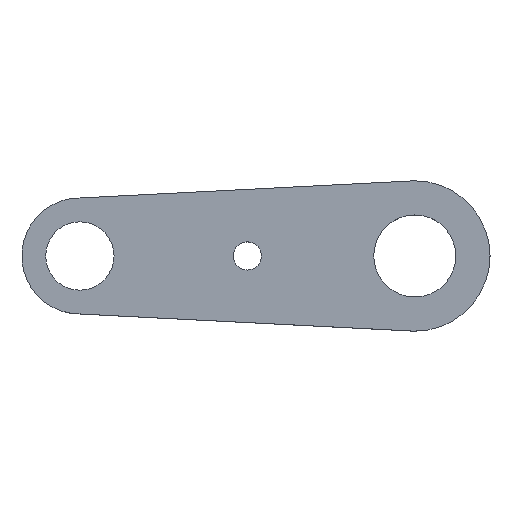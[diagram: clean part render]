
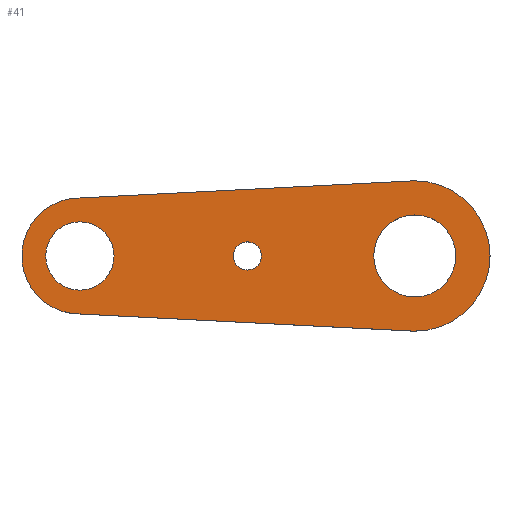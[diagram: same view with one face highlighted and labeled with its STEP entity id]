
A CAD part, top view. The second image highlights one B-rep face of the part: STEP entity #41.
In plain terms, the highlighted planar face has unit normal (0, 0, 1).
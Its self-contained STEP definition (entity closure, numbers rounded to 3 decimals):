
#41 = ADVANCED_FACE( '', ( #81, #82, #83, #84 ), #85, .F. );
#81 = FACE_BOUND( '', #124, .T. );
#82 = FACE_BOUND( '', #125, .T. );
#83 = FACE_BOUND( '', #126, .T. );
#84 = FACE_OUTER_BOUND( '', #127, .T. );
#85 = PLANE( '', #128 );
#124 = EDGE_LOOP( '', ( #178 ) );
#125 = EDGE_LOOP( '', ( #179 ) );
#126 = EDGE_LOOP( '', ( #180 ) );
#127 = EDGE_LOOP( '', ( #181, #182, #183, #184 ) );
#128 = AXIS2_PLACEMENT_3D( '', #185, #186, #187 );
#178 = ORIENTED_EDGE( '', *, *, #236, .T. );
#179 = ORIENTED_EDGE( '', *, *, #237, .T. );
#180 = ORIENTED_EDGE( '', *, *, #233, .T. );
#181 = ORIENTED_EDGE( '', *, *, #238, .F. );
#182 = ORIENTED_EDGE( '', *, *, #227, .F. );
#183 = ORIENTED_EDGE( '', *, *, #231, .F. );
#184 = ORIENTED_EDGE( '', *, *, #222, .F. );
#185 = CARTESIAN_POINT( '', ( -49., 0., 5. ) );
#186 = DIRECTION( '', ( 0., 0., -1. ) );
#187 = DIRECTION( '', ( -1., 0., 0. ) );
#222 = EDGE_CURVE( '', #250, #252, #253, .T. );
#227 = EDGE_CURVE( '', #259, #261, #262, .T. );
#231 = EDGE_CURVE( '', #252, #259, #266, .T. );
#233 = EDGE_CURVE( '', #268, #268, #269, .T. );
#236 = EDGE_CURVE( '', #273, #273, #274, .T. );
#237 = EDGE_CURVE( '', #275, #275, #276, .T. );
#238 = EDGE_CURVE( '', #261, #250, #277, .T. );
#250 = VERTEX_POINT( '', #291 );
#252 = VERTEX_POINT( '', #294 );
#253 = CIRCLE( '', #295, 8.5 );
#259 = VERTEX_POINT( '', #302 );
#261 = VERTEX_POINT( '', #305 );
#262 = CIRCLE( '', #306, 11. );
#266 = LINE( '', #312, #313 );
#268 = VERTEX_POINT( '', #315 );
#269 = CIRCLE( '', #316, 5. );
#273 = VERTEX_POINT( '', #320 );
#274 = CIRCLE( '', #321, 2.067 );
#275 = VERTEX_POINT( '', #322 );
#276 = CIRCLE( '', #323, 6. );
#277 = LINE( '', #324, #325 );
#291 = CARTESIAN_POINT( '', ( -48.826, -8.498, 5. ) );
#294 = CARTESIAN_POINT( '', ( -48.826, 8.498, 5. ) );
#295 = AXIS2_PLACEMENT_3D( '', #340, #341, #342 );
#302 = CARTESIAN_POINT( '', ( 0., 11., 5. ) );
#305 = CARTESIAN_POINT( '', ( 0., -11., 5. ) );
#306 = AXIS2_PLACEMENT_3D( '', #348, #349, #350 );
#312 = CARTESIAN_POINT( '', ( -48.826, 8.498, 5. ) );
#313 = VECTOR( '', #353, 1000. );
#315 = CARTESIAN_POINT( '', ( -44., 0., 5. ) );
#316 = AXIS2_PLACEMENT_3D( '', #354, #355, #356 );
#320 = CARTESIAN_POINT( '', ( -26.567, 0., 5. ) );
#321 = AXIS2_PLACEMENT_3D( '', #360, #361, #362 );
#322 = CARTESIAN_POINT( '', ( 6., 0., 5. ) );
#323 = AXIS2_PLACEMENT_3D( '', #363, #364, #365 );
#324 = CARTESIAN_POINT( '', ( -48.826, -8.498, 5. ) );
#325 = VECTOR( '', #366, 1000. );
#340 = CARTESIAN_POINT( '', ( -49., 0., 5. ) );
#341 = DIRECTION( '', ( 0., 0., -1. ) );
#342 = DIRECTION( '', ( 1., 0., 0. ) );
#348 = CARTESIAN_POINT( '', ( 0., 0., 5. ) );
#349 = DIRECTION( '', ( 0., 0., -1. ) );
#350 = DIRECTION( '', ( -1., 0., 0. ) );
#353 = DIRECTION( '', ( 0.999, 0.051, 0. ) );
#354 = CARTESIAN_POINT( '', ( -49., 0., 5. ) );
#355 = DIRECTION( '', ( 0., 0., -1. ) );
#356 = DIRECTION( '', ( 1., 0., 0. ) );
#360 = CARTESIAN_POINT( '', ( -24.5, 0., 5. ) );
#361 = DIRECTION( '', ( 0., 0., -1. ) );
#362 = DIRECTION( '', ( -1., 0., 0. ) );
#363 = CARTESIAN_POINT( '', ( 0., 0., 5. ) );
#364 = DIRECTION( '', ( 0., 0., -1. ) );
#365 = DIRECTION( '', ( 1., 0., 0. ) );
#366 = DIRECTION( '', ( -0.999, 0.051, 0. ) );
